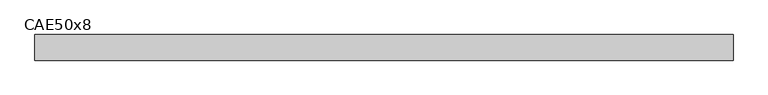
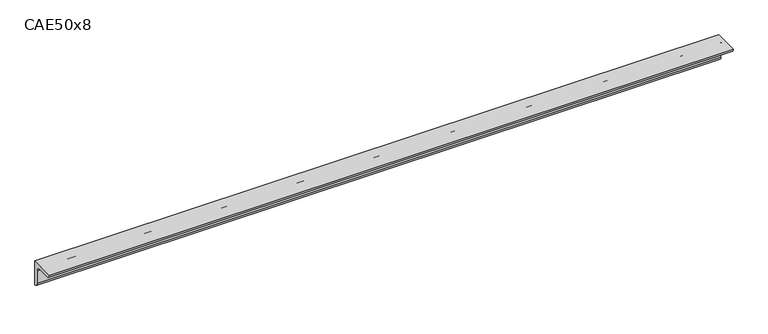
"""IFC4 building model written with IfcOpenShell, lengths in millimetres: beam geometry, L-Cornières : CAE50x8."""

from ifc_helpers import new_model, si_unit, point, frame, frame_2d, origin, place, context, project, spatial, polyline, circle_curve, trimmed, segment, composite_curve, outline, extrude, source, transform, mapped, element, save


def cae50x8_e28c1a5a(model_context):
    return source(origin(), model_context, "Body", "SweptSolid", [
        extrude(outline(composite_curve([segment(polyline([(15.2, 15.2), (15.2, -34.8)]), True, "CONTINUOUS"), segment(trimmed(circle_curve(frame_2d((15.2, -26.8)), 8.0), [point((15.2, -34.8))], [point((7.2, -26.8))], False, "CARTESIAN"), True, "CONTINUOUS"), segment(polyline([(7.2, -26.8), (7.2, -0.8)]), True, "CONTINUOUS"), segment(trimmed(circle_curve(frame_2d((-0.8, -0.8)), 8.0), [point((7.2, -0.8))], [point((-0.8, 7.2))], True, "CARTESIAN"), True, "CONTINUOUS"), segment(polyline([(-0.8, 7.2), (-26.8, 7.2)]), True, "CONTINUOUS"), segment(trimmed(circle_curve(frame_2d((-26.8, 15.2)), 8.0), [point((-26.8, 7.2))], [point((-34.8, 15.2))], False, "CARTESIAN"), True, "CONTINUOUS"), segment(polyline([(-34.8, 15.2), (15.2, 15.2)]), True, "CONTINUOUS")], self_intersect=False)), frame((-682.0, 0.0, 0.0), z_axis=(1.0, 0.0, 0.0), x_axis=(0.0, 1.0, 0.0)), (0.0, 0.0, 1.0), 1361.0),
    ])


if __name__ == "__main__":
    model = new_model("IFC4")
    model_context = context("Model", 3, world=origin())
    ifc_project = project(units=[si_unit("LENGTHUNIT", "METRE", prefix="MILLI")], contexts=[model_context])
    site = spatial("IfcSite", under=ifc_project)
    building = spatial("IfcBuilding", under=site)
    placement = place(None, origin())
    cae50x8_shape = cae50x8_e28c1a5a(model_context)
    element("IfcBeam", 1, ObjectType="L-Cornières : CAE50x8", at=placement, inside=building, context=model_context, shape_type="MappedRepresentation", body=[
        mapped(cae50x8_shape, transform((0.0, 0.0, 0.0), x_axis=(1.0, 0.0, 0.0), y_axis=(0.0, 1.0, 0.0), z_axis=(0.0, 0.0, 1.0))),
    ])
    save(model, "model.ifc")
